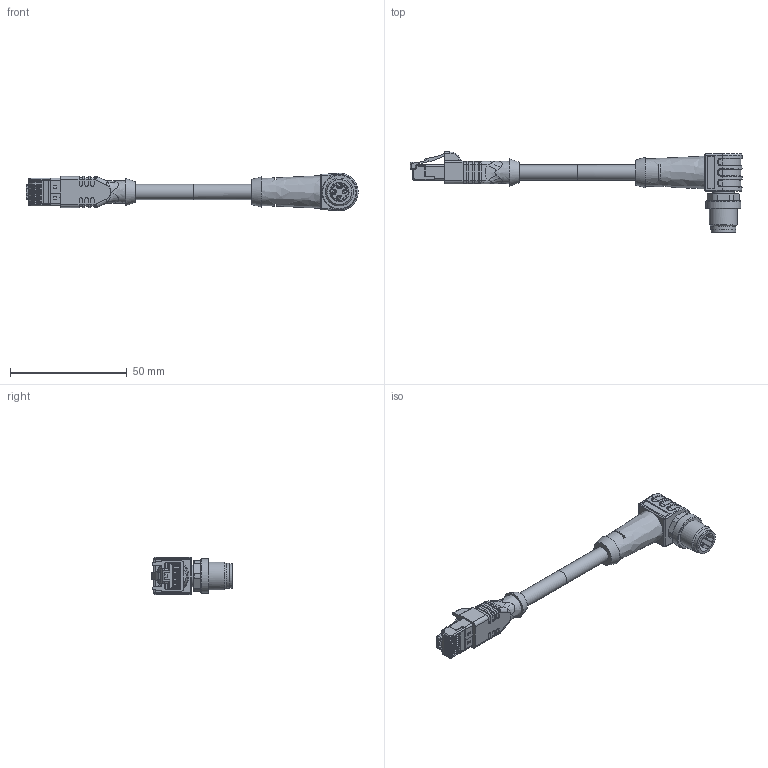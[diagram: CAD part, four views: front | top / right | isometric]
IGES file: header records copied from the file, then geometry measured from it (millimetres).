
Global section: file name: 153-13564_CI L4MW_RJ45G-GS-xm-PUR; native system: Autodesk Inventor 2018; preprocessor: unknown; date: 20191114.100200; units: millimetre
Bounding box: 142.19 x 34.34 x 15.98 mm (x, y, z)
Volume: 14912.1 mm3; surface area: 7376.4 mm2
Topology: 2 solids, 2 shells, 908 faces, 2373 edges, 1485 vertices
Faces by surface type: bspline 908
